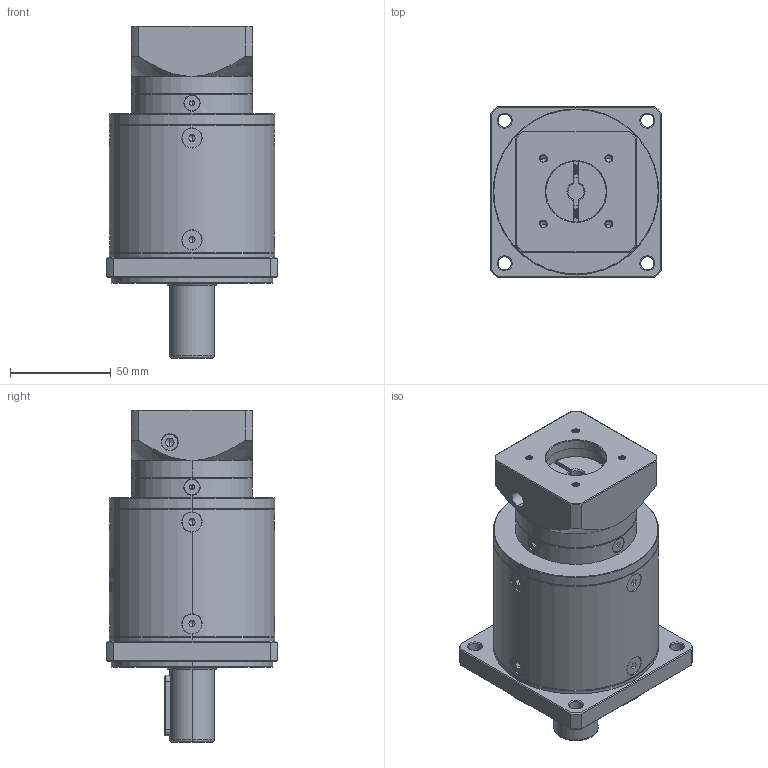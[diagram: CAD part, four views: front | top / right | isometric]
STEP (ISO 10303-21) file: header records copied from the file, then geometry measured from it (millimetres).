
FILE_DESCRIPTION (( 'STEP AP214' ), '1' );
FILE_NAME ('ZF080-D22-L3-P2-8-30-46-M4.step', '2023-08-19T06:58:09', ( '' ), ( '' ), 'SwSTEP 2.0', 'SolidWorks 2016', '' );
FILE_SCHEMA (( 'AUTOMOTIVE_DESIGN' ));
Length unit declared in the file: millimetre
Products named in the file (1): ZF080-D22-L3-P2-8-30-46-M4
Bounding box: 85 x 85 x 164.5 mm (x, y, z)
Volume: 582109.5 mm3; surface area: 73406.5 mm2
Topology: 18 solids, 18 shells, 2254 faces, 5938 edges, 3785 vertices
Faces by surface type: plane 1123, bspline 394, cylinder 375, cone 320, torus 42
Entity records: 116545 total; most frequent: CARTESIAN_POINT 40874, ORIENTED_EDGE 11800, DIRECTION 8874, EDGE_CURVE 5900, VERTEX_POINT 3785, LINE 3128, VECTOR 3128, AXIS2_PLACEMENT_3D 2873
